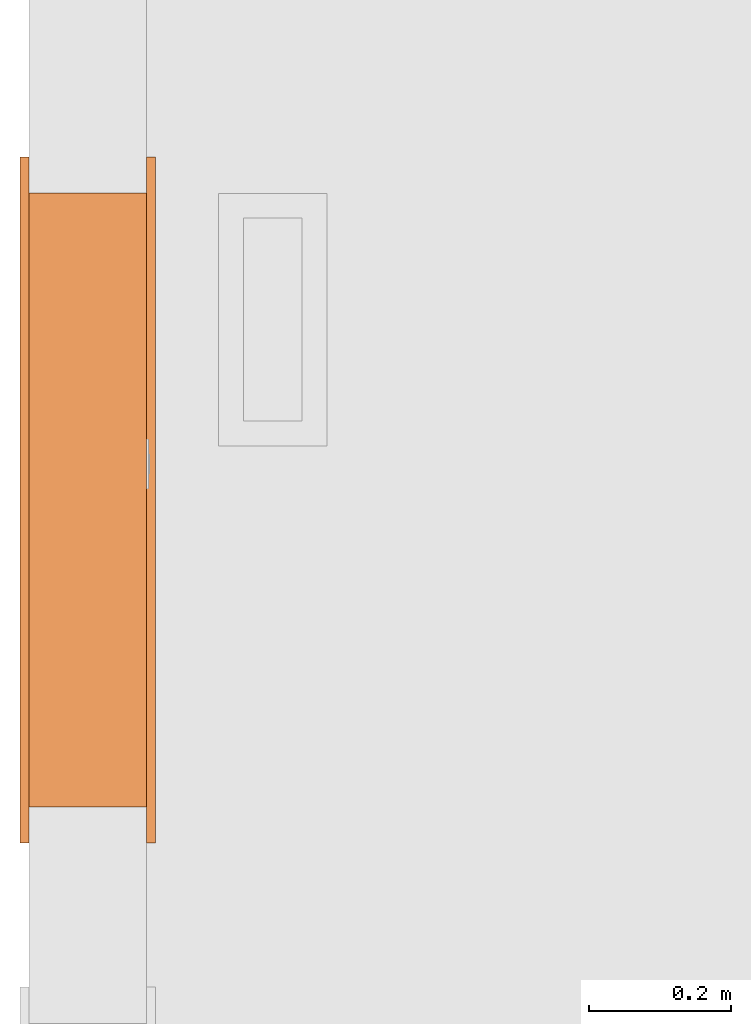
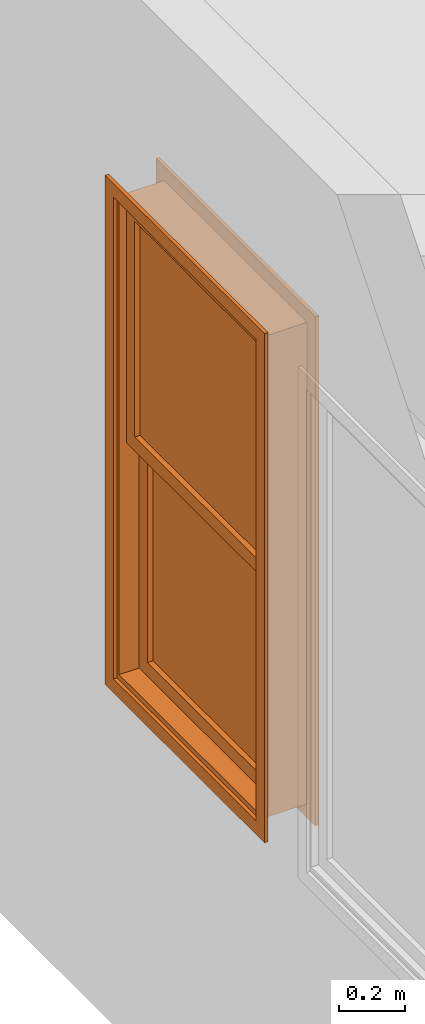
# One storey, part 60 of 103: 1 proxy.
"""IFC2X3 building model written with IfcOpenShell, lengths in inches."""

from ifc_helpers import new_model, entity, si_unit, converted_unit, derived_unit, money_unit, direction, frame, origin_with_axes, place, context, subcontext, project, spatial, faceted_brep, source, transform, mapped, type_object, element, save


model = new_model("IFC2X3")

# Units and contexts
model_context = context("Model", 3, precision=0.00039370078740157, world=origin_with_axes(), true_north=direction((0.0, 1.0)))
plan_context = context("Plan", 3, precision=0.00039370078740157, world=origin_with_axes(), true_north=direction((0.0, 1.0)))
body_context = subcontext(model_context, "Body", "Model", "MODEL_VIEW")
ifc_project = project(units=[converted_unit("LENGTHUNIT", "INCH", entity("IfcPositiveLengthMeasure", 0.0254), si_unit("LENGTHUNIT", "METRE"), dimensions=[1, 0, 0, 0, 0, 0, 0]), converted_unit("AREAUNIT", "SQUARE_FOOT", entity("IfcPositiveLengthMeasure", 0.09290304), si_unit("AREAUNIT", "SQUARE_METRE"), dimensions=[2, 0, 0, 0, 0, 0, 0]), si_unit("PLANEANGLEUNIT", "RADIAN"), si_unit("SOLIDANGLEUNIT", "STERADIAN"), money_unit("USD"), converted_unit("TIMEUNIT", "Year", entity("IfcTimeMeasure", 31557600.0), si_unit("TIMEUNIT", "SECOND"), dimensions=[0, 0, 1, 0, 0, 0, 0]), si_unit("MASSUNIT", "GRAM", prefix="KILO"), si_unit("THERMODYNAMICTEMPERATUREUNIT", "DEGREE_CELSIUS"), si_unit("LUMINOUSINTENSITYUNIT", "LUMEN"), si_unit("ENERGYUNIT", "JOULE", prefix="MEGA"), derived_unit("SPECIFICHEATCAPACITYUNIT", [(si_unit("ENERGYUNIT", "JOULE"), 1), (si_unit("MASSUNIT", "GRAM", prefix="KILO"), -1), (si_unit("THERMODYNAMICTEMPERATUREUNIT", "KELVIN"), -1)])], contexts=[model_context, plan_context])

# Site, building, storey
site_placement = place(None, origin_with_axes())
site = spatial("IfcSite", under=ifc_project, at=site_placement, Name="Site", CompositionType="ELEMENT")
building_placement = place(site_placement, origin_with_axes())
building = spatial("IfcBuilding", under=site, at=building_placement, Name="Building", CompositionType="ELEMENT")
storey_placement = place(building_placement, frame((0.0, 0.0, 127.9999999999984), z_axis=(0.0, 0.0, 1.0), x_axis=(1.0, 0.0, 0.0)))
storey = spatial("IfcBuildingStorey", under=building, at=storey_placement, Name="Second Floor", CompositionType="ELEMENT", Elevation=128.0)

# Proxy
building_element_proxy_type = type_object("IfcBuildingElementProxyType", Name="W Double Hung", PredefinedType="NOTDEFINED")
shared_shape = source(origin_with_axes(), body_context, "Body", "Brep", [
    faceted_brep([(16.99999999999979, 0.0, 0.0), (-16.99999999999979, 0.0, 0.0), (-16.99999999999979, 1.999999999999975, 0.0), (16.99999999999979, 1.999999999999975, 0.0), (16.99999999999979, 0.0, 69.99999999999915), (-16.99999999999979, 0.0, 69.99999999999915), (16.4999999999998, 0.0, 0.4999999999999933), (-16.4999999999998, 0.0, 0.4999999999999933), (-16.4999999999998, 0.0, 69.49999999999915), (16.4999999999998, 0.0, 69.49999999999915), (-16.99999999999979, 1.999999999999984, 69.99999999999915), (16.99999999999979, 1.999999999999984, 69.99999999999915), (16.4999999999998, 1.999999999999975, 0.4999999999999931), (16.4999999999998, 1.999999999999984, 69.49999999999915), (-16.4999999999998, 1.999999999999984, 69.49999999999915), (-16.4999999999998, 1.999999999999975, 0.4999999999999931)], [[[0, 1, 2, 3]], [[0, 4, 5, 1], [6, 7, 8, 9]], [[1, 5, 10, 2]], [[3, 2, 10, 11], [12, 13, 14, 15]], [[4, 0, 3, 11]], [[5, 4, 11, 10]], [[7, 6, 12, 15]], [[8, 7, 15, 14]], [[9, 8, 14, 13]], [[6, 9, 13, 12]]]),
    faceted_brep([(18.99999999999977, 2.499999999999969, -1.999999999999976), (18.99999999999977, 1.999999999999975, -1.999999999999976), (16.99999999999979, 1.999999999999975, 0.0), (16.99999999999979, 2.499999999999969, 0.0), (18.99999999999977, 2.499999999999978, 71.99999999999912), (18.99999999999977, 1.999999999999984, 71.99999999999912), (16.99999999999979, 1.999999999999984, 69.99999999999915), (16.99999999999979, 2.499999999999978, 69.99999999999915)], [[[0, 1, 2, 3]], [[4, 5, 1, 0]], [[1, 5, 6, 2]], [[3, 2, 6, 7]], [[0, 3, 7, 4]], [[7, 6, 5, 4]]]),
    faceted_brep([(-18.99999999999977, 2.499999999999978, 71.99999999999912), (-18.99999999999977, 1.999999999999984, 71.99999999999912), (-16.99999999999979, 1.999999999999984, 69.99999999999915), (-16.99999999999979, 2.499999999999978, 69.99999999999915), (-18.99999999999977, 2.499999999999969, -1.999999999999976), (-18.99999999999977, 1.999999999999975, -1.999999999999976), (-16.99999999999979, 1.999999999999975, 0.0), (-16.99999999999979, 2.499999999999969, 0.0)], [[[0, 1, 2, 3]], [[4, 5, 1, 0]], [[1, 5, 6, 2]], [[3, 2, 6, 7]], [[0, 3, 7, 4]], [[7, 6, 5, 4]]]),
    faceted_brep([(-18.99999999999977, 2.499999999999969, -1.999999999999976), (-18.99999999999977, 1.999999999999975, -1.999999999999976), (-16.99999999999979, 1.999999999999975, 0.0), (-16.99999999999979, 2.499999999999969, 0.0), (18.99999999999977, 2.499999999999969, -1.999999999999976), (18.99999999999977, 1.999999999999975, -1.999999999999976), (16.99999999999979, 1.999999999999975, 0.0), (16.99999999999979, 2.499999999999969, 0.0)], [[[0, 1, 2, 3]], [[4, 5, 1, 0]], [[1, 5, 6, 2]], [[3, 2, 6, 7]], [[0, 3, 7, 4]], [[7, 6, 5, 4]]]),
    faceted_brep([(18.99999999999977, 2.499999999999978, 71.99999999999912), (18.99999999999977, 1.999999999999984, 71.99999999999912), (16.99999999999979, 1.999999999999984, 69.99999999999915), (16.99999999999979, 2.499999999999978, 69.99999999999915), (-18.99999999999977, 2.499999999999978, 71.99999999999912), (-18.99999999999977, 1.999999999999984, 71.99999999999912), (-16.99999999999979, 1.999999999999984, 69.99999999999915), (-16.99999999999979, 2.499999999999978, 69.99999999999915)], [[[0, 1, 2, 3]], [[4, 5, 1, 0]], [[1, 5, 6, 2]], [[3, 2, 6, 7]], [[0, 3, 7, 4]], [[7, 6, 5, 4]]]),
    faceted_brep([(18.99999999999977, -4.999999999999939, -1.999999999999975), (16.99999999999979, -4.999999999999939, 0.0), (16.99999999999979, -4.499999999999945, 0.0), (18.99999999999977, -4.499999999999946, -1.999999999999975), (18.99999999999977, -4.99999999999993, 71.99999999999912), (16.99999999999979, -4.99999999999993, 69.99999999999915), (16.99999999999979, -4.499999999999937, 69.99999999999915), (18.99999999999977, -4.499999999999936, 71.99999999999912)], [[[0, 1, 2, 3]], [[0, 4, 5, 1]], [[1, 5, 6, 2]], [[3, 2, 6, 7]], [[4, 0, 3, 7]], [[5, 4, 7, 6]]]),
    faceted_brep([(-18.99999999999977, -4.99999999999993, 71.99999999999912), (-16.99999999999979, -4.99999999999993, 69.99999999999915), (-16.99999999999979, -4.499999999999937, 69.99999999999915), (-18.99999999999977, -4.499999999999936, 71.99999999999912), (-18.99999999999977, -4.999999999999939, -1.999999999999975), (-16.99999999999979, -4.999999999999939, 0.0), (-16.99999999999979, -4.499999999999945, 0.0), (-18.99999999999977, -4.499999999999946, -1.999999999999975)], [[[0, 1, 2, 3]], [[0, 4, 5, 1]], [[1, 5, 6, 2]], [[3, 2, 6, 7]], [[4, 0, 3, 7]], [[5, 4, 7, 6]]]),
    faceted_brep([(-18.99999999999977, -4.999999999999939, -1.999999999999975), (-16.99999999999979, -4.999999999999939, 0.0), (-16.99999999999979, -4.499999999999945, 0.0), (-18.99999999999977, -4.499999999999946, -1.999999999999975), (18.99999999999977, -4.999999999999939, -1.999999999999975), (16.99999999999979, -4.999999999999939, 0.0), (16.99999999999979, -4.499999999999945, 0.0), (18.99999999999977, -4.499999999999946, -1.999999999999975)], [[[0, 1, 2, 3]], [[0, 4, 5, 1]], [[1, 5, 6, 2]], [[3, 2, 6, 7]], [[4, 0, 3, 7]], [[5, 4, 7, 6]]]),
    faceted_brep([(18.99999999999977, -4.99999999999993, 71.99999999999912), (16.99999999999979, -4.99999999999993, 69.99999999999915), (16.99999999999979, -4.499999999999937, 69.99999999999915), (18.99999999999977, -4.499999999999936, 71.99999999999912), (-18.99999999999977, -4.99999999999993, 71.99999999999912), (-16.99999999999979, -4.99999999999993, 69.99999999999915), (-16.99999999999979, -4.499999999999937, 69.99999999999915), (-18.99999999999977, -4.499999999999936, 71.99999999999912)], [[[0, 1, 2, 3]], [[0, 4, 5, 1]], [[1, 5, 6, 2]], [[3, 2, 6, 7]], [[4, 0, 3, 7]], [[5, 4, 7, 6]]]),
    faceted_brep([(16.5003937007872, -4.499999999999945, 0.7539370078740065), (16.99999999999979, -4.499999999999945, 0.7539370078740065), (16.99999999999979, -4.499999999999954, 69.49606299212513), (16.5003937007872, -4.499999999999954, 69.49606299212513), (16.5003937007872, 0.0, 0.7539370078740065), (16.99999999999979, 0.0, 0.7539370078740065), (16.99999999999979, 0.0, 69.49606299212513), (16.5003937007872, 0.0, 69.49606299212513)], [[[0, 1, 2, 3]], [[4, 5, 1, 0]], [[6, 2, 1, 5]], [[3, 2, 6, 7]], [[7, 4, 0, 3]], [[7, 6, 5, 4]]]),
    faceted_brep([(-16.5003937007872, 0.0, 69.49606299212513), (-16.99999999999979, 0.0, 69.49606299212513), (-16.99999999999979, -4.499999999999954, 69.49606299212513), (-16.5003937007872, -4.499999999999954, 69.49606299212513), (-16.5003937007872, 0.0, 0.7539370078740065), (-16.99999999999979, 0.0, 0.7539370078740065), (-16.99999999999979, -4.499999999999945, 0.7539370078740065), (-16.5003937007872, -4.499999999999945, 0.7539370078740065)], [[[0, 1, 2, 3]], [[4, 5, 1, 0]], [[5, 6, 2, 1]], [[3, 2, 6, 7]], [[7, 4, 0, 3]], [[7, 6, 5, 4]]]),
    faceted_brep([(-16.5003937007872, 0.0, 0.7539370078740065), (-16.99999999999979, 0.0, 0.7539370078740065), (-16.99999999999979, -4.499999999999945, 0.7539370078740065), (-16.5003937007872, -4.499999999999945, 0.7539370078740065), (-16.5003937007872, 0.0, 0.7496062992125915), (16.5003937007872, 0.0, 0.7496062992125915), (16.5003937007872, 0.0, 0.7539370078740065), (16.99999999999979, 0.0, 0.7539370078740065), (16.99999999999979, 0.0, 0.0), (-16.99999999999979, 0.0, 0.0), (-16.99999999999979, -4.499999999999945, 0.0), (16.5003937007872, -4.499999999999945, 0.7496062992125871), (-16.5003937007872, -4.499999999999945, 0.7496062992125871), (16.99999999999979, -4.499999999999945, 0.0), (16.99999999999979, -4.499999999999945, 0.7539370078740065), (16.5003937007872, -4.499999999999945, 0.7539370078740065)], [[[0, 1, 2, 3]], [[4, 5, 6, 7, 8, 9, 1, 0]], [[9, 10, 2, 1]], [[11, 12, 3, 2, 10, 13, 14, 15]], [[12, 4, 0, 3]], [[11, 5, 4, 12]], [[6, 5, 11, 15]], [[15, 14, 7, 6]], [[7, 14, 13, 8]], [[8, 13, 10, 9]]]),
    faceted_brep([(16.5003937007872, -4.499999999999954, 69.49606299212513), (16.99999999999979, -4.499999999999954, 69.49606299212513), (16.99999999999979, -4.499999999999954, 69.99999999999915), (-16.99999999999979, -4.499999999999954, 69.99999999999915), (-16.99999999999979, -4.499999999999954, 69.49606299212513), (-16.5003937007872, -4.499999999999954, 69.49606299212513), (-16.5003937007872, -4.499999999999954, 69.50039370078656), (16.5003937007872, -4.499999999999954, 69.50039370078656), (16.5003937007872, 0.0, 69.49606299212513), (16.99999999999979, 0.0, 69.49606299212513), (16.99999999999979, 0.0, 69.99999999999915), (-16.99999999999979, 0.0, 69.99999999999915), (-16.99999999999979, 0.0, 69.49606299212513), (-16.5003937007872, 0.0, 69.49606299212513), (-16.5003937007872, 0.0, 69.50039370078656), (16.5003937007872, 0.0, 69.50039370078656)], [[[0, 1, 2, 3, 4, 5, 6, 7]], [[8, 9, 1, 0]], [[10, 2, 1, 9]], [[11, 3, 2, 10]], [[12, 4, 3, 11]], [[5, 4, 12, 13]], [[5, 13, 14, 6]], [[6, 14, 15, 7]], [[7, 15, 8, 0]], [[15, 14, 13, 12, 11, 10, 9, 8]]]),
    faceted_brep([(14.49999999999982, 0.0, 2.749999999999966), (14.49999999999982, -0.8749999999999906, 2.749999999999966), (14.49999999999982, -0.8749999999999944, 34.12499999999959), (14.49999999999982, 0.0, 34.12499999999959), (16.4999999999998, 0.0, 2.749999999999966), (16.4999999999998, -0.8749999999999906, 2.749999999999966), (16.4999999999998, -0.8749999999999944, 34.12499999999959), (16.4999999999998, 0.0, 34.12499999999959)], [[[0, 1, 2, 3]], [[4, 5, 1, 0]], [[1, 5, 6, 2]], [[3, 2, 6, 7]], [[0, 3, 7, 4]], [[7, 6, 5, 4]]]),
    faceted_brep([(-16.4999999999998, 0.0, 2.749999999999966), (-16.4999999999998, -0.8749999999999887, 2.749999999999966), (-16.4999999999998, -0.8749999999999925, 34.12499999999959), (-16.4999999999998, 0.0, 34.12499999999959), (-14.49999999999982, 0.0, 2.749999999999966), (-14.49999999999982, -0.8749999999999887, 2.749999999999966), (-14.49999999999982, -0.8749999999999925, 34.12499999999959), (-14.49999999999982, 0.0, 34.12499999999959)], [[[0, 1, 2, 3]], [[4, 5, 1, 0]], [[1, 5, 6, 2]], [[3, 2, 6, 7]], [[0, 3, 7, 4]], [[7, 6, 5, 4]]]),
    faceted_brep([(-16.4999999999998, 0.0, 0.749999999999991), (-16.4999999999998, -0.8749999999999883, 0.7499999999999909), (-16.4999999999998, -0.8749999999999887, 2.749999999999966), (-16.4999999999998, 0.0, 2.749999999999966), (16.4999999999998, 0.0, 0.749999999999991), (16.4999999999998, -0.8749999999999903, 0.7499999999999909), (16.4999999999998, -0.8749999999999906, 2.749999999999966), (14.49999999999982, -0.8749999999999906, 2.749999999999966), (0.9999999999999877, -0.8749999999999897, 2.749999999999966), (-0.9999999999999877, -0.8749999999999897, 2.749999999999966), (-14.49999999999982, -0.8749999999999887, 2.749999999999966), (-14.49999999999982, 0.0, 2.749999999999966), (-0.9999999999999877, 0.0, 2.749999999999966), (0.9999999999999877, 0.0, 2.749999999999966), (14.49999999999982, 0.0, 2.749999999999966), (16.4999999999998, 0.0, 2.749999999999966)], [[[0, 1, 2, 3]], [[4, 5, 1, 0]], [[1, 5, 6, 7, 8, 9, 10, 2]], [[3, 2, 10, 11]], [[0, 3, 11, 12, 13, 14, 15, 4]], [[15, 6, 5, 4]], [[14, 7, 6, 15]], [[13, 8, 7, 14]], [[12, 9, 8, 13]], [[11, 10, 9, 12]]]),
    faceted_brep([(16.4999999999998, 0.0, 36.12499999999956), (16.4999999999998, -0.8749999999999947, 36.12499999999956), (16.4999999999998, -0.8749999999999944, 34.12499999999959), (16.4999999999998, 0.0, 34.12499999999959), (-16.4999999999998, 0.0, 36.12499999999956), (-16.4999999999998, -0.8749999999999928, 36.12499999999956), (-16.4999999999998, -0.8749999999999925, 34.12499999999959), (-14.49999999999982, -0.8749999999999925, 34.12499999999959), (-0.9999999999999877, -0.8749999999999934, 34.12499999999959), (0.9999999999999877, -0.8749999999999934, 34.12499999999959), (14.49999999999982, -0.8749999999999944, 34.12499999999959), (14.49999999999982, 0.0, 34.12499999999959), (0.9999999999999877, 0.0, 34.12499999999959), (-0.9999999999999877, 0.0, 34.12499999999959), (-14.49999999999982, 0.0, 34.12499999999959), (-16.4999999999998, 0.0, 34.12499999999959)], [[[0, 1, 2, 3]], [[4, 5, 1, 0]], [[1, 5, 6, 7, 8, 9, 10, 2]], [[3, 2, 10, 11]], [[0, 3, 11, 12, 13, 14, 15, 4]], [[15, 6, 5, 4]], [[14, 7, 6, 15]], [[13, 8, 7, 14]], [[12, 9, 8, 13]], [[11, 10, 9, 12]]]),
    faceted_brep([(14.49999999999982, -0.8749999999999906, 2.749999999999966), (14.49999999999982, -1.74999999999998, 2.749999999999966), (14.49999999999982, -1.749999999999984, 34.12499999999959), (14.49999999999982, -0.8749999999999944, 34.12499999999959), (16.4999999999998, -0.8749999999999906, 2.749999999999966), (16.4999999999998, -1.74999999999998, 2.749999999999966), (16.4999999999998, -1.749999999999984, 34.12499999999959), (16.4999999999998, -0.8749999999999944, 34.12499999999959)], [[[0, 1, 2, 3]], [[4, 5, 1, 0]], [[1, 5, 6, 2]], [[3, 2, 6, 7]], [[0, 3, 7, 4]], [[7, 6, 5, 4]]]),
    faceted_brep([(-16.4999999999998, -0.8749999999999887, 2.749999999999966), (-16.4999999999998, -1.749999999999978, 2.749999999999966), (-16.4999999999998, -1.749999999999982, 34.12499999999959), (-16.4999999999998, -0.8749999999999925, 34.12499999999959), (-14.49999999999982, -0.8749999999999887, 2.749999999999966), (-14.49999999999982, -1.749999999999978, 2.749999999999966), (-14.49999999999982, -1.749999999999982, 34.12499999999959), (-14.49999999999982, -0.8749999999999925, 34.12499999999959)], [[[0, 1, 2, 3]], [[4, 5, 1, 0]], [[1, 5, 6, 2]], [[3, 2, 6, 7]], [[0, 3, 7, 4]], [[7, 6, 5, 4]]]),
    faceted_brep([(-16.4999999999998, -0.8749999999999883, 0.7499999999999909), (-16.4999999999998, -1.749999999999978, 0.7499999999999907), (-16.4999999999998, -1.749999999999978, 2.749999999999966), (-16.4999999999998, -0.8749999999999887, 2.749999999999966), (16.4999999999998, -0.8749999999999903, 0.7499999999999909), (16.4999999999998, -1.74999999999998, 0.7499999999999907), (16.4999999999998, -1.74999999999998, 2.749999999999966), (14.49999999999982, -1.74999999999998, 2.749999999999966), (0.9999999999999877, -1.749999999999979, 2.749999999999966), (-0.9999999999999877, -1.749999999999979, 2.749999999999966), (-14.49999999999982, -1.749999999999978, 2.749999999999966), (-14.49999999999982, -0.8749999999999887, 2.749999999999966), (-0.9999999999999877, -0.8749999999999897, 2.749999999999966), (0.9999999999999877, -0.8749999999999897, 2.749999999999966), (14.49999999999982, -0.8749999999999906, 2.749999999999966), (16.4999999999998, -0.8749999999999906, 2.749999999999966)], [[[0, 1, 2, 3]], [[4, 5, 1, 0]], [[1, 5, 6, 7, 8, 9, 10, 2]], [[3, 2, 10, 11]], [[0, 3, 11, 12, 13, 14, 15, 4]], [[15, 6, 5, 4]], [[14, 7, 6, 15]], [[13, 8, 7, 14]], [[12, 9, 8, 13]], [[11, 10, 9, 12]]]),
    faceted_brep([(16.4999999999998, -0.8749999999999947, 36.12499999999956), (16.4999999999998, -1.749999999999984, 36.12499999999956), (16.4999999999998, -1.749999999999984, 34.12499999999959), (16.4999999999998, -0.8749999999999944, 34.12499999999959), (-16.4999999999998, -0.8749999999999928, 36.12499999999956), (-16.4999999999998, -1.749999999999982, 36.12499999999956), (-16.4999999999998, -1.749999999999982, 34.12499999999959), (-14.49999999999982, -1.749999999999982, 34.12499999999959), (-0.9999999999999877, -1.749999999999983, 34.12499999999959), (0.9999999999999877, -1.749999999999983, 34.12499999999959), (14.49999999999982, -1.749999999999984, 34.12499999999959), (14.49999999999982, -0.8749999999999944, 34.12499999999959), (0.9999999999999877, -0.8749999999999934, 34.12499999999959), (-0.9999999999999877, -0.8749999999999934, 34.12499999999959), (-14.49999999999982, -0.8749999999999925, 34.12499999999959), (-16.4999999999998, -0.8749999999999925, 34.12499999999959)], [[[0, 1, 2, 3]], [[4, 5, 1, 0]], [[1, 5, 6, 7, 8, 9, 10, 2]], [[3, 2, 10, 11]], [[0, 3, 11, 12, 13, 14, 15, 4]], [[15, 6, 5, 4]], [[14, 7, 6, 15]], [[13, 8, 7, 14]], [[12, 9, 8, 13]], [[11, 10, 9, 12]]]),
    faceted_brep([(14.49999999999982, -0.7499999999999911, 2.749999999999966), (14.49999999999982, -0.999999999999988, 2.749999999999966), (-14.49999999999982, -0.999999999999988, 2.749999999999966), (-14.49999999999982, -0.7499999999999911, 2.749999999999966), (14.49999999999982, -0.749999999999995, 34.12499999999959), (14.49999999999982, -0.9999999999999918, 34.12499999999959), (-14.49999999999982, -0.9999999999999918, 34.12499999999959), (-14.49999999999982, -0.749999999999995, 34.12499999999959)], [[[0, 1, 2, 3]], [[4, 5, 1, 0]], [[1, 5, 6, 2]], [[3, 2, 6, 7]], [[0, 3, 7, 4]], [[7, 6, 5, 4]]]),
    faceted_brep([(14.49999999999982, -1.749999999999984, 36.12499999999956), (14.49999999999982, -2.624999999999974, 36.12499999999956), (14.49999999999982, -2.624999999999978, 67.49999999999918), (14.49999999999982, -1.749999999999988, 67.49999999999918), (16.4999999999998, -1.749999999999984, 36.12499999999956), (16.4999999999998, -2.624999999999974, 36.12499999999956), (16.4999999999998, -2.624999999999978, 67.49999999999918), (16.4999999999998, -1.749999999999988, 67.49999999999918)], [[[0, 1, 2, 3]], [[4, 5, 1, 0]], [[1, 5, 6, 2]], [[3, 2, 6, 7]], [[0, 3, 7, 4]], [[7, 6, 5, 4]]]),
    faceted_brep([(-16.4999999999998, -1.749999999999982, 36.12499999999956), (-16.4999999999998, -2.624999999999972, 36.12499999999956), (-16.4999999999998, -2.624999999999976, 67.49999999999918), (-16.4999999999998, -1.749999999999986, 67.49999999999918), (-14.49999999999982, -1.749999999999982, 36.12499999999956), (-14.49999999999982, -2.624999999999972, 36.12499999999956), (-14.49999999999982, -2.624999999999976, 67.49999999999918), (-14.49999999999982, -1.749999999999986, 67.49999999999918)], [[[0, 1, 2, 3]], [[4, 5, 1, 0]], [[1, 5, 6, 2]], [[3, 2, 6, 7]], [[0, 3, 7, 4]], [[7, 6, 5, 4]]]),
    faceted_brep([(-16.4999999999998, -1.749999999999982, 34.12499999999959), (-16.4999999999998, -2.624999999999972, 34.12499999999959), (-16.4999999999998, -2.624999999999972, 36.12499999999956), (-16.4999999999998, -1.749999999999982, 36.12499999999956), (16.4999999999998, -1.749999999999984, 34.12499999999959), (16.4999999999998, -2.624999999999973, 34.12499999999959), (16.4999999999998, -2.624999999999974, 36.12499999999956), (14.49999999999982, -2.624999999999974, 36.12499999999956), (0.9999999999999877, -2.624999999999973, 36.12499999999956), (-0.9999999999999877, -2.624999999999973, 36.12499999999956), (-14.49999999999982, -2.624999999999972, 36.12499999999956), (-14.49999999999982, -1.749999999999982, 36.12499999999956), (-0.9999999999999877, -1.749999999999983, 36.12499999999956), (0.9999999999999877, -1.749999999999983, 36.12499999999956), (14.49999999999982, -1.749999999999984, 36.12499999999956), (16.4999999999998, -1.749999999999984, 36.12499999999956)], [[[0, 1, 2, 3]], [[4, 5, 1, 0]], [[1, 5, 6, 7, 8, 9, 10, 2]], [[3, 2, 10, 11]], [[0, 3, 11, 12, 13, 14, 15, 4]], [[15, 6, 5, 4]], [[14, 7, 6, 15]], [[13, 8, 7, 14]], [[12, 9, 8, 13]], [[11, 10, 9, 12]]]),
    faceted_brep([(16.4999999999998, -1.749999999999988, 69.49999999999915), (16.4999999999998, -2.624999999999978, 69.49999999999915), (16.4999999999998, -2.624999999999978, 67.49999999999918), (16.4999999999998, -1.749999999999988, 67.49999999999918), (-16.4999999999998, -1.749999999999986, 69.49999999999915), (-16.4999999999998, -2.624999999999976, 69.49999999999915), (-16.4999999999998, -2.624999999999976, 67.49999999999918), (-14.49999999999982, -2.624999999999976, 67.49999999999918), (-0.9999999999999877, -2.624999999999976, 67.49999999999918), (0.9999999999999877, -2.624999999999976, 67.49999999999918), (14.49999999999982, -2.624999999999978, 67.49999999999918), (14.49999999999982, -1.749999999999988, 67.49999999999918), (0.9999999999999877, -1.749999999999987, 67.49999999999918), (-0.9999999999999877, -1.749999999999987, 67.49999999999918), (-14.49999999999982, -1.749999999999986, 67.49999999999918), (-16.4999999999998, -1.749999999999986, 67.49999999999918)], [[[0, 1, 2, 3]], [[4, 5, 1, 0]], [[1, 5, 6, 7, 8, 9, 10, 2]], [[3, 2, 10, 11]], [[0, 3, 11, 12, 13, 14, 15, 4]], [[15, 6, 5, 4]], [[14, 7, 6, 15]], [[13, 8, 7, 14]], [[12, 9, 8, 13]], [[11, 10, 9, 12]]]),
    faceted_brep([(14.49999999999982, -2.624999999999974, 36.12499999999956), (14.49999999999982, -3.499999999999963, 36.12499999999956), (14.49999999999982, -3.499999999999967, 67.49999999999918), (14.49999999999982, -2.624999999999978, 67.49999999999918), (16.4999999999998, -2.624999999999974, 36.12499999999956), (16.4999999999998, -3.499999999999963, 36.12499999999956), (16.4999999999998, -3.499999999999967, 67.49999999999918), (16.4999999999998, -2.624999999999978, 67.49999999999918)], [[[0, 1, 2, 3]], [[4, 5, 1, 0]], [[1, 5, 6, 2]], [[3, 2, 6, 7]], [[0, 3, 7, 4]], [[7, 6, 5, 4]]]),
    faceted_brep([(-16.4999999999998, -2.624999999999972, 36.12499999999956), (-16.4999999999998, -3.49999999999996, 36.12499999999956), (-16.4999999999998, -3.499999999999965, 67.49999999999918), (-16.4999999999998, -2.624999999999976, 67.49999999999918), (-14.49999999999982, -2.624999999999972, 36.12499999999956), (-14.49999999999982, -3.49999999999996, 36.12499999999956), (-14.49999999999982, -3.499999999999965, 67.49999999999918), (-14.49999999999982, -2.624999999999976, 67.49999999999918)], [[[0, 1, 2, 3]], [[4, 5, 1, 0]], [[1, 5, 6, 2]], [[3, 2, 6, 7]], [[0, 3, 7, 4]], [[7, 6, 5, 4]]]),
    faceted_brep([(-16.4999999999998, -2.624999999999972, 34.12499999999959), (-16.4999999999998, -3.49999999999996, 34.12499999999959), (-16.4999999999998, -3.49999999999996, 36.12499999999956), (-16.4999999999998, -2.624999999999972, 36.12499999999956), (16.4999999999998, -2.624999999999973, 34.12499999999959), (16.4999999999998, -3.499999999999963, 34.12499999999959), (16.4999999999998, -3.499999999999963, 36.12499999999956), (14.49999999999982, -3.499999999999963, 36.12499999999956), (0.9999999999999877, -3.499999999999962, 36.12499999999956), (-0.9999999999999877, -3.499999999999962, 36.12499999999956), (-14.49999999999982, -3.49999999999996, 36.12499999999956), (-14.49999999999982, -2.624999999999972, 36.12499999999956), (-0.9999999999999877, -2.624999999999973, 36.12499999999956), (0.9999999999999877, -2.624999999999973, 36.12499999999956), (14.49999999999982, -2.624999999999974, 36.12499999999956), (16.4999999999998, -2.624999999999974, 36.12499999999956)], [[[0, 1, 2, 3]], [[4, 5, 1, 0]], [[1, 5, 6, 7, 8, 9, 10, 2]], [[3, 2, 10, 11]], [[0, 3, 11, 12, 13, 14, 15, 4]], [[15, 6, 5, 4]], [[14, 7, 6, 15]], [[13, 8, 7, 14]], [[12, 9, 8, 13]], [[11, 10, 9, 12]]]),
    faceted_brep([(16.4999999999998, -2.624999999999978, 69.49999999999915), (16.4999999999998, -3.499999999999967, 69.49999999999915), (16.4999999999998, -3.499999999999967, 67.49999999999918), (16.4999999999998, -2.624999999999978, 67.49999999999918), (-16.4999999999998, -2.624999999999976, 69.49999999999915), (-16.4999999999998, -3.499999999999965, 69.49999999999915), (-16.4999999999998, -3.499999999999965, 67.49999999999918), (-14.49999999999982, -3.499999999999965, 67.49999999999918), (-0.9999999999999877, -3.499999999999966, 67.49999999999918), (0.9999999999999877, -3.499999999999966, 67.49999999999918), (14.49999999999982, -3.499999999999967, 67.49999999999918), (14.49999999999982, -2.624999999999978, 67.49999999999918), (0.9999999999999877, -2.624999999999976, 67.49999999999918), (-0.9999999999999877, -2.624999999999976, 67.49999999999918), (-14.49999999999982, -2.624999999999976, 67.49999999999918), (-16.4999999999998, -2.624999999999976, 67.49999999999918)], [[[0, 1, 2, 3]], [[4, 5, 1, 0]], [[1, 5, 6, 7, 8, 9, 10, 2]], [[3, 2, 10, 11]], [[0, 3, 11, 12, 13, 14, 15, 4]], [[15, 6, 5, 4]], [[14, 7, 6, 15]], [[13, 8, 7, 14]], [[12, 9, 8, 13]], [[11, 10, 9, 12]]]),
    faceted_brep([(14.49999999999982, -2.499999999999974, 36.12499999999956), (14.49999999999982, -2.749999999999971, 36.12499999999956), (-14.49999999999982, -2.749999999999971, 36.12499999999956), (-14.49999999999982, -2.499999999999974, 36.12499999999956), (14.49999999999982, -2.499999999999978, 67.49999999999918), (14.49999999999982, -2.749999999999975, 67.49999999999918), (-14.49999999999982, -2.749999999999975, 67.49999999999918), (-14.49999999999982, -2.499999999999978, 67.49999999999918)], [[[0, 1, 2, 3]], [[4, 5, 1, 0]], [[1, 5, 6, 2]], [[3, 2, 6, 7]], [[0, 3, 7, 4]], [[7, 6, 5, 4]]]),
])
proxy_placement = place(storey_placement, frame((-255.7499999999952, 562.9999999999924, 23.9999999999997), z_axis=(0.0, 0.0, 1.0), x_axis=(0.0, -1.0, 0.0)))
element("IfcBuildingElementProxy", 1, at=proxy_placement, inside=storey, type_object=building_element_proxy_type, Name="WD - 002", context=body_context, shape_type="MappedRepresentation", body=[
    mapped(shared_shape, transform((16.99999999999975, -1.999999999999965, 0.0))),
])

save(model, "model.ifc")
